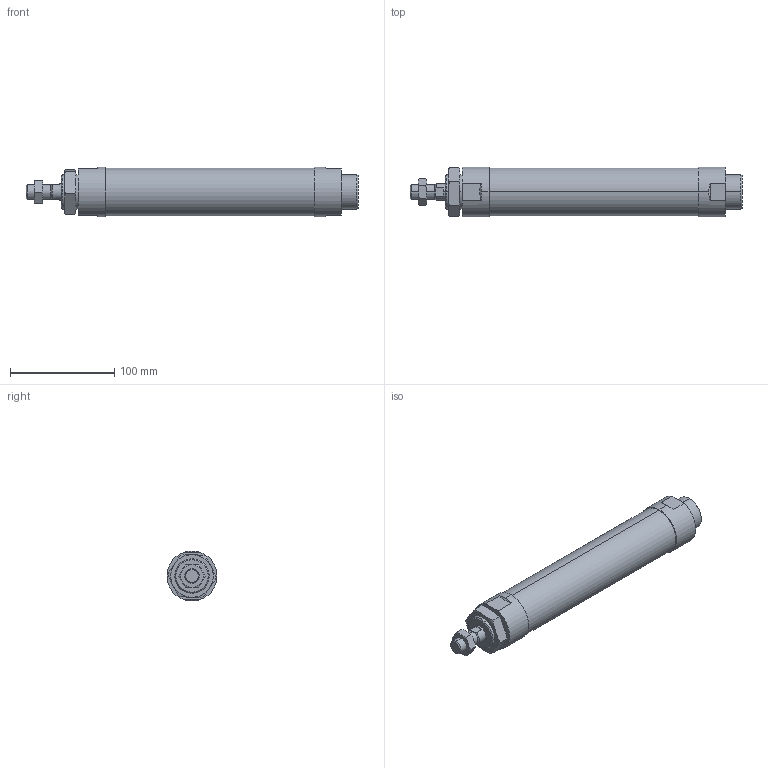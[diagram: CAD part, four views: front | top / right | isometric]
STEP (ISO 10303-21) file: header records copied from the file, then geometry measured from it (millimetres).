
FILE_DESCRIPTION (( 'STEP AP203' ), '1' );
FILE_NAME ('J#2-40-150-N.STEP', '2016-03-08T08:02:57', ( '' ), ( '' ), 'SwSTEP 2.0', 'SolidWorks 2014', '' );
FILE_SCHEMA (( 'CONFIG_CONTROL_DESIGN' ));
Length unit declared in the file: millimetre
Products named in the file (4): J#2-40-150; J#2-40-150-N
Assembly tree (3 placements, depth 2):
  J#2-40-150-N
    J#2-40-150
    (unnamed)
    (unnamed)
Bounding box: 319 x 48 x 48 mm (x, y, z)
Volume: 467104.6 mm3; surface area: 52113.2 mm2
Topology: 3 solids, 3 shells, 94 faces, 210 edges, 125 vertices
Faces by surface type: plane 33, torus 24, cylinder 22, cone 15
Entity records: 3435 total; most frequent: CARTESIAN_POINT 1022, DIRECTION 421, ORIENTED_EDGE 412, EDGE_CURVE 206, AXIS2_PLACEMENT_3D 178, VERTEX_POINT 125, EDGE_LOOP 105, FACE_OUTER_BOUND 94
